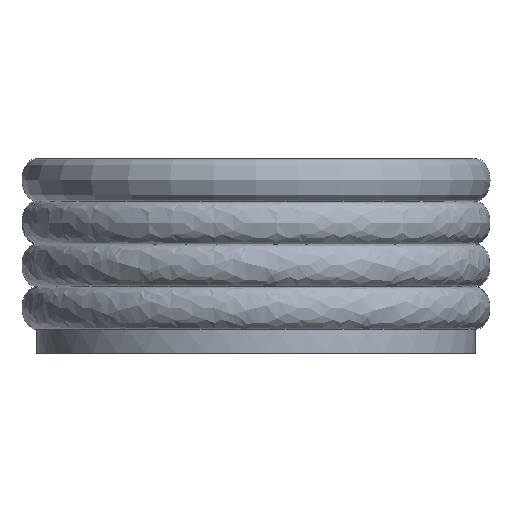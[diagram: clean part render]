
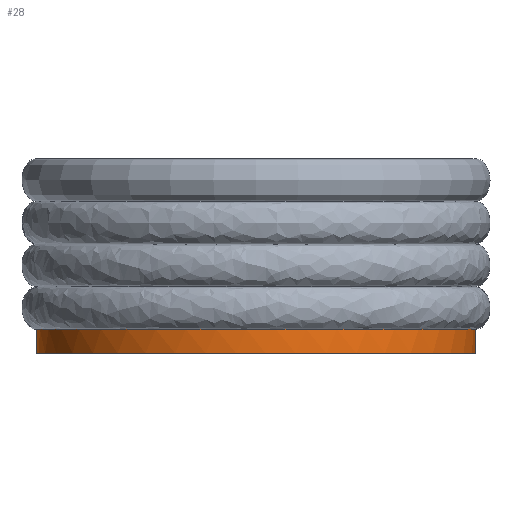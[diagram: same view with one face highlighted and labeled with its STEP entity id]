
A CAD part, front view. The second image highlights one B-rep face of the part: STEP entity #28.
In plain terms, the highlighted free-form (B-spline) face has degree [2, 1] with [5, 2] control points.
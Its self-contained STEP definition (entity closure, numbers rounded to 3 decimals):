
#28=ADVANCED_FACE('',(#40),#341,.T.);
#40=FACE_OUTER_BOUND('',#52,.T.);
#52=EDGE_LOOP('',(#92,#93,#94,#95));
#92=ORIENTED_EDGE('',*,*,#291,.T.);
#93=ORIENTED_EDGE('',*,*,#286,.F.);
#94=ORIENTED_EDGE('',*,*,#292,.T.);
#95=ORIENTED_EDGE('',*,*,#284,.F.);
#130=PCURVE('',#339,#176);
#132=PCURVE('',#339,#178);
#138=PCURVE('',#341,#184);
#139=PCURVE('',#341,#185);
#140=PCURVE('',#341,#186);
#141=PCURVE('',#341,#187);
#144=PCURVE('',#342,#190);
#176=DEFINITIONAL_REPRESENTATION('',(#223),#859);
#178=DEFINITIONAL_REPRESENTATION('',(#226),#859);
#184=DEFINITIONAL_REPRESENTATION('',(#234),#859);
#185=DEFINITIONAL_REPRESENTATION('',(#235),#859);
#186=DEFINITIONAL_REPRESENTATION('',(#236),#859);
#187=DEFINITIONAL_REPRESENTATION('',(#237),#859);
#190=DEFINITIONAL_REPRESENTATION('',(#240),#859);
#222=B_SPLINE_CURVE_WITH_KNOTS('',1,(#788,#789),.UNSPECIFIED.,.F.,.F.,(2,
2),(156.194,197.733),.UNSPECIFIED.);
#223=B_SPLINE_CURVE_WITH_KNOTS('',1,(#790,#791),.UNSPECIFIED.,.F.,.F.,(2,
2),(156.194,197.733),.UNSPECIFIED.);
#225=B_SPLINE_CURVE_WITH_KNOTS('',1,(#799,#800),.UNSPECIFIED.,.F.,.F.,(2,
2),(-197.733,-156.194),.UNSPECIFIED.);
#226=B_SPLINE_CURVE_WITH_KNOTS('',1,(#801,#802),.UNSPECIFIED.,.F.,.F.,(2,
2),(-197.733,-156.194),.UNSPECIFIED.);
#234=B_SPLINE_CURVE_WITH_KNOTS('',1,(#832,#833),.UNSPECIFIED.,.F.,.F.,(2,
2),(1414.399,2828.799),.UNSPECIFIED.);
#235=B_SPLINE_CURVE_WITH_KNOTS('',1,(#834,#835),.UNSPECIFIED.,.F.,.F.,(2,
2),(-197.733,-156.194),.UNSPECIFIED.);
#236=B_SPLINE_CURVE_WITH_KNOTS('',1,(#841,#842),.UNSPECIFIED.,.F.,.F.,(2,
2),(-2828.799,-1414.399),.UNSPECIFIED.);
#237=B_SPLINE_CURVE_WITH_KNOTS('',1,(#843,#844),.UNSPECIFIED.,.F.,.F.,(2,
2),(156.194,197.733),.UNSPECIFIED.);
#240=B_SPLINE_CURVE_WITH_KNOTS('',1,(#854,#855),.UNSPECIFIED.,.F.,.F.,(2,
2),(1414.399,2828.799),.UNSPECIFIED.);
#258=SURFACE_CURVE('',#222,(#130,#141),.PCURVE_S1.);
#260=SURFACE_CURVE('',#225,(#132,#139),.PCURVE_S1.);
#265=SURFACE_CURVE('',#313,(#138,#144),.PCURVE_S1.);
#266=SURFACE_CURVE('',#314,(#140),.PCURVE_S1.);
#284=EDGE_CURVE('',#328,#329,#258,.T.);
#286=EDGE_CURVE('',#326,#327,#260,.T.);
#291=EDGE_CURVE('',#328,#327,#265,.T.);
#292=EDGE_CURVE('',#326,#329,#266,.T.);
#313=(
BOUNDED_CURVE()
B_SPLINE_CURVE(2,(#827,#828,#829,#830,#831),.UNSPECIFIED.,.F.,.F.)
B_SPLINE_CURVE_WITH_KNOTS((3,2,3),(1414.399,2121.599,2828.799),
 .UNSPECIFIED.)
CURVE()
GEOMETRIC_REPRESENTATION_ITEM()
RATIONAL_B_SPLINE_CURVE((1.,0.707,1.,0.707,1.))
REPRESENTATION_ITEM('')
);
#314=(
BOUNDED_CURVE()
B_SPLINE_CURVE(2,(#836,#837,#838,#839,#840),.UNSPECIFIED.,.F.,.F.)
B_SPLINE_CURVE_WITH_KNOTS((3,2,3),(-2828.799,-2121.599,-1414.399),
 .UNSPECIFIED.)
CURVE()
GEOMETRIC_REPRESENTATION_ITEM()
RATIONAL_B_SPLINE_CURVE((1.,0.707,1.,0.707,1.))
REPRESENTATION_ITEM('')
);
#326=VERTEX_POINT('',#783);
#327=VERTEX_POINT('',#784);
#328=VERTEX_POINT('',#785);
#329=VERTEX_POINT('',#786);
#339=(
BOUNDED_SURFACE()
B_SPLINE_SURFACE(2,1,((#742,#743),(#744,#745),(#746,#747),(#748,#749),(#750,
#751)),.UNSPECIFIED.,.F.,.F.,.F.)
B_SPLINE_SURFACE_WITH_KNOTS((3,2,3),(2,2),(0.,707.2,1414.399),
(156.194,197.733),.UNSPECIFIED.)
GEOMETRIC_REPRESENTATION_ITEM()
RATIONAL_B_SPLINE_SURFACE(((1.,1.),(0.707,0.707),
(1.,1.),(0.707,0.707),(1.,1.)))
REPRESENTATION_ITEM('')
SURFACE()
);
#341=(
BOUNDED_SURFACE()
B_SPLINE_SURFACE(2,1,((#762,#763),(#764,#765),(#766,#767),(#768,#769),(#770,
#771)),.UNSPECIFIED.,.F.,.F.,.F.)
B_SPLINE_SURFACE_WITH_KNOTS((3,2,3),(2,2),(1414.399,2121.599,
2828.799),(156.194,197.733),.UNSPECIFIED.)
GEOMETRIC_REPRESENTATION_ITEM()
RATIONAL_B_SPLINE_SURFACE(((1.,1.),(0.707,0.707),
(1.,1.),(0.707,0.707),(1.,1.)))
REPRESENTATION_ITEM('')
SURFACE()
);
#342=(
BOUNDED_SURFACE()
B_SPLINE_SURFACE(2,1,((#772,#773),(#774,#775),(#776,#777),(#778,#779),(#780,
#781)),.UNSPECIFIED.,.F.,.F.,.F.)
B_SPLINE_SURFACE_WITH_KNOTS((3,2,3),(2,2),(1414.399,2121.599,
2828.799),(0.,156.194),.UNSPECIFIED.)
GEOMETRIC_REPRESENTATION_ITEM()
RATIONAL_B_SPLINE_SURFACE(((1.,1.),(0.707,0.707),
(1.,1.),(0.707,0.707),(1.,1.)))
REPRESENTATION_ITEM('')
SURFACE()
);
#742=CARTESIAN_POINT('',(14933.973,-825.552,0.));
#743=CARTESIAN_POINT('',(14933.973,-825.552,49.54));
#744=CARTESIAN_POINT('',(14933.973,-375.334,0.));
#745=CARTESIAN_POINT('',(14933.973,-375.334,49.54));
#746=CARTESIAN_POINT('',(15384.19,-375.334,0.));
#747=CARTESIAN_POINT('',(15384.19,-375.334,49.54));
#748=CARTESIAN_POINT('',(15834.407,-375.334,0.));
#749=CARTESIAN_POINT('',(15834.407,-375.334,49.54));
#750=CARTESIAN_POINT('',(15834.407,-825.552,0.));
#751=CARTESIAN_POINT('',(15834.407,-825.552,49.54));
#762=CARTESIAN_POINT('',(15834.407,-825.552,0.));
#763=CARTESIAN_POINT('',(15834.407,-825.552,49.54));
#764=CARTESIAN_POINT('',(15834.407,-1275.769,0.));
#765=CARTESIAN_POINT('',(15834.407,-1275.769,49.54));
#766=CARTESIAN_POINT('',(15384.19,-1275.769,0.));
#767=CARTESIAN_POINT('',(15384.19,-1275.769,49.54));
#768=CARTESIAN_POINT('',(14933.973,-1275.769,0.));
#769=CARTESIAN_POINT('',(14933.973,-1275.769,49.54));
#770=CARTESIAN_POINT('',(14933.973,-825.552,0.));
#771=CARTESIAN_POINT('',(14933.973,-825.552,49.54));
#772=CARTESIAN_POINT('',(15482.887,-825.552,0.));
#773=CARTESIAN_POINT('',(15834.407,-825.552,0.));
#774=CARTESIAN_POINT('',(15482.887,-924.249,0.));
#775=CARTESIAN_POINT('',(15834.407,-1275.769,0.));
#776=CARTESIAN_POINT('',(15384.19,-924.249,0.));
#777=CARTESIAN_POINT('',(15384.19,-1275.769,0.));
#778=CARTESIAN_POINT('',(15285.493,-924.249,0.));
#779=CARTESIAN_POINT('',(14933.973,-1275.769,0.));
#780=CARTESIAN_POINT('',(15285.493,-825.552,0.));
#781=CARTESIAN_POINT('',(14933.973,-825.552,0.));
#783=CARTESIAN_POINT('',(14933.973,-825.552,49.54));
#784=CARTESIAN_POINT('',(14933.973,-825.552,0.));
#785=CARTESIAN_POINT('',(15834.407,-825.552,0.));
#786=CARTESIAN_POINT('',(15834.407,-825.552,49.54));
#788=CARTESIAN_POINT('',(15834.407,-825.552,0.));
#789=CARTESIAN_POINT('',(15834.407,-825.552,49.54));
#790=CARTESIAN_POINT('',(1414.399,156.194));
#791=CARTESIAN_POINT('',(1414.399,197.733));
#799=CARTESIAN_POINT('',(14933.973,-825.552,49.54));
#800=CARTESIAN_POINT('',(14933.973,-825.552,0.));
#801=CARTESIAN_POINT('',(0.,197.733));
#802=CARTESIAN_POINT('',(0.,156.194));
#827=CARTESIAN_POINT('',(15834.407,-825.552,0.));
#828=CARTESIAN_POINT('',(15834.407,-1275.769,0.));
#829=CARTESIAN_POINT('',(15384.19,-1275.769,0.));
#830=CARTESIAN_POINT('',(14933.973,-1275.769,0.));
#831=CARTESIAN_POINT('',(14933.973,-825.552,0.));
#832=CARTESIAN_POINT('',(1414.399,156.194));
#833=CARTESIAN_POINT('',(2828.799,156.194));
#834=CARTESIAN_POINT('',(2828.799,197.733));
#835=CARTESIAN_POINT('',(2828.799,156.194));
#836=CARTESIAN_POINT('',(14933.973,-825.552,49.54));
#837=CARTESIAN_POINT('',(14933.973,-1275.769,49.54));
#838=CARTESIAN_POINT('',(15384.19,-1275.769,49.54));
#839=CARTESIAN_POINT('',(15834.407,-1275.769,49.54));
#840=CARTESIAN_POINT('',(15834.407,-825.552,49.54));
#841=CARTESIAN_POINT('',(2828.799,197.733));
#842=CARTESIAN_POINT('',(1414.399,197.733));
#843=CARTESIAN_POINT('',(1414.399,156.194));
#844=CARTESIAN_POINT('',(1414.399,197.733));
#854=CARTESIAN_POINT('',(1414.399,156.194));
#855=CARTESIAN_POINT('',(2828.799,156.194));
#859=(
GEOMETRIC_REPRESENTATION_CONTEXT(2)
PARAMETRIC_REPRESENTATION_CONTEXT()
REPRESENTATION_CONTEXT('pspace','')
);
